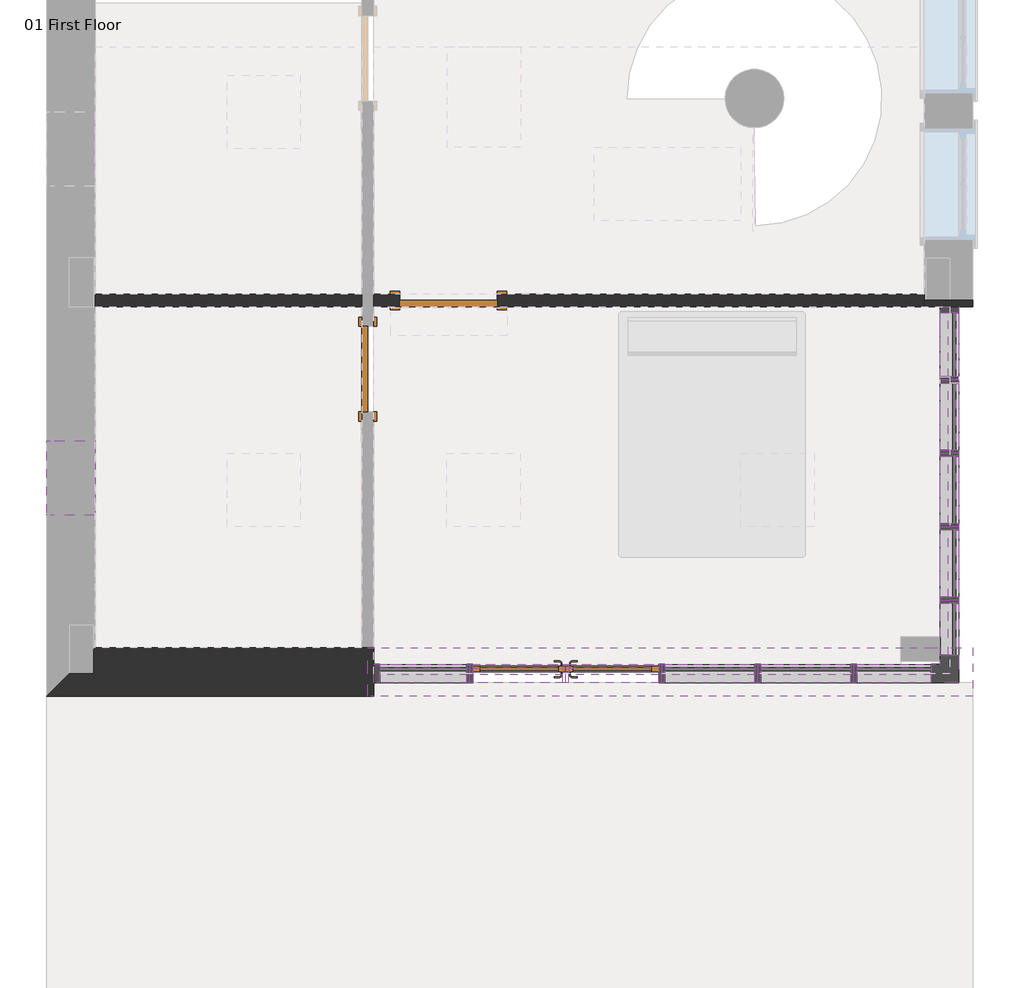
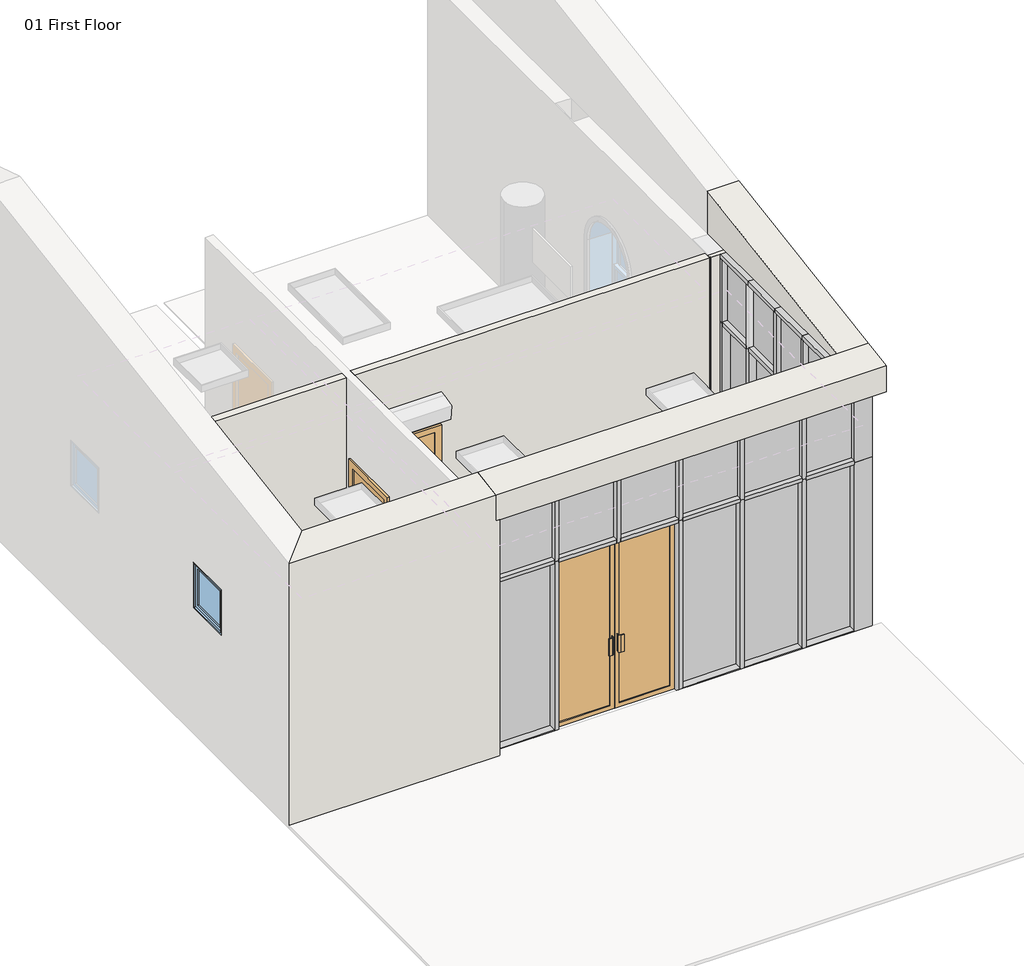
# One storey, part 1 of 3: 53 members, 20 plates, 4 walls, 3 doors, 1 window.
"""IFC4 building model written with IfcOpenShell, lengths in millimetres."""

from ifc_helpers import new_model, si_unit, origin, place, context, project, spatial, faceted_brep, transform, mapped, element, save
from components import m_door_curtain_wall_double_storefront_m_door_curtain_wall_a63655ac, m_single_flush_0700_x_2100mm_23326b45, m_single_flush_0800_x_2100mm_5931a049, l_corner_mullion_l_mullion_1_1d961c4e, l_corner_mullion_l_mullion_1_b63ad59a, rectangular_mullion_50_x_150mm_324a6438, rectangular_mullion_50_x_150mm_8753ce05, rectangular_mullion_50_x_150mm_f70f74d1, rectangular_mullion_50_x_150mm_f478ca5a, rectangular_mullion_50_x_150mm_1075d9c1, rectangular_mullion_50_x_150mm_46eb6b68, rectangular_mullion_50_x_150mm_e71c6a5f, rectangular_mullion_50_x_150mm_3a67f67c, rectangular_mullion_50_x_150mm_6f8b8c16, rectangular_mullion_50_x_150mm_ef0603af, rectangular_mullion_50_x_150mm_754370e9, rectangular_mullion_50_x_150mm_1d8f0c1a, rectangular_mullion_50_x_150mm_0200b82d, rectangular_mullion_50_x_150mm_8ce7235b, rectangular_mullion_50_x_150mm_2b21d210, rectangular_mullion_50_x_150mm_29e254ca, rectangular_mullion_50_x_150mm_14b52876, rectangular_mullion_50_x_150mm_9f0cf5c8, rectangular_mullion_50_x_150mm_be1420ea, rectangular_mullion_50_x_150mm_bf176b26, rectangular_mullion_50_x_150mm_20b6891b, rectangular_mullion_50_x_150mm_c032485d, rectangular_mullion_50_x_150mm_94435dd6, system_panel_glazed_9309a35e, system_panel_glazed_55cc88df, system_panel_glazed_a4bb0f7f, system_panel_glazed_1f9666d3, system_panel_glazed_d7ec0edf, system_panel_glazed_06e6dd14, system_panel_solid_3e9ab903, system_panel_solid_e0b174c6, system_panel_solid_388c8a63, system_panel_solid_286dc7ff, system_panel_solid_fd27a8c9, system_panel_solid_4de7fab2, m_fixed_0610_x_0610mm_08517cb4

model = new_model("IFC4")

# Units and contexts
model_context = context("Model", 3, world=origin())
ifc_project = project(units=[si_unit("LENGTHUNIT", "METRE", prefix="MILLI")], contexts=[model_context])

# Site, building, storey
site = spatial("IfcSite", under=ifc_project)
building = spatial("IfcBuilding", under=site)
storey = spatial("IfcBuildingStorey", under=building, Name="01 First Floor", Elevation=3500.0)

# Doors
placement = place(None, origin())
m_door_curtain_wall_double_storefront_m_door_curtain_wall_shape = m_door_curtain_wall_double_storefront_m_door_curtain_wall_a63655ac(model_context)
element("IfcDoor", 1, ObjectType="M_Door-Curtain-Wall-Double-Storefront : M_Door-Curtain-Wall-Double-Storefront", at=placement, inside=storey, context=model_context, shape_type="MappedRepresentation", body=[
    mapped(m_door_curtain_wall_double_storefront_m_door_curtain_wall_shape, transform((-4264.2074665, -3062.7101648, 3500.0), x_axis=(1.0, 0.0, 0.0), y_axis=(0.0, 1.0, 0.0), z_axis=(0.0, 0.0, 1.0))),
])
m_single_flush_0700_x_2100mm_shape = m_single_flush_0700_x_2100mm_23326b45(model_context)
element("IfcDoor", 2, ObjectType="M_Single-Flush : 0700 x 2100mm", at=placement, inside=storey, context=model_context, shape_type="MappedRepresentation", body=[
    mapped(m_single_flush_0700_x_2100mm_shape, transform((-5882.5407999, -574.1267294, 3500.0), x_axis=(0.0, 1.0, 0.0), y_axis=(-1.0, 0.0, 0.0), z_axis=(0.0, 0.0, 1.0))),
])
m_single_flush_0800_x_2100mm_shape = m_single_flush_0800_x_2100mm_5931a049(model_context)
element("IfcDoor", 3, ObjectType="M_Single-Flush : 0800 x 2100mm", at=placement, inside=storey, context=model_context, shape_type="MappedRepresentation", body=[
    mapped(m_single_flush_0800_x_2100mm_shape, transform((-5222.5407999, -12.7101648, 3500.0), x_axis=(-1.0, 0.0, 0.0), y_axis=(0.0, -1.0, 0.0), z_axis=(0.0, 0.0, 1.0))),
])

# Members
l_corner_mullion_l_mullion_1_shape = l_corner_mullion_l_mullion_1_1d961c4e(model_context)
element("IfcMember", 4, ObjectType="L Corner Mullion : L Mullion 1", at=placement, inside=storey, context=model_context, shape_type="MappedRepresentation", body=[
    mapped(l_corner_mullion_l_mullion_1_shape, transform((-1127.5407999, -3062.7101648, 5800.0), x_axis=(0.0, -1.0, 0.0), y_axis=(1.0, 0.0, 0.0), z_axis=(0.0, 0.0, 1.0))),
])
l_corner_mullion_l_mullion_1_2_shape = l_corner_mullion_l_mullion_1_b63ad59a(model_context)
element("IfcMember", 5, ObjectType="L Corner Mullion : L Mullion 1", at=placement, inside=storey, context=model_context, shape_type="MappedRepresentation", body=[
    mapped(l_corner_mullion_l_mullion_1_2_shape, transform((-1127.5407999, -3062.7101648, 6700.0), x_axis=(0.0, -1.0, 0.0), y_axis=(1.0, 0.0, 0.0), z_axis=(0.0, 0.0, 1.0))),
])
rectangular_mullion_50_x_150mm_shape = rectangular_mullion_50_x_150mm_324a6438(model_context)
element("IfcMember", 6, ObjectType="Rectangular Mullion : 50 x 150mm", at=placement, inside=storey, context=model_context, shape_type="MappedRepresentation", body=[
    mapped(rectangular_mullion_50_x_150mm_shape, transform((-5832.5407999, -3062.7101648, 6650.0), x_axis=(-1.0, 0.0, 0.0), y_axis=(0.0, -1.0, 0.0), z_axis=(0.0, 0.0, 1.0))),
])
rectangular_mullion_50_x_150mm_2_shape = rectangular_mullion_50_x_150mm_8753ce05(model_context)
element("IfcMember", 7, ObjectType="Rectangular Mullion : 50 x 150mm", at=placement, inside=storey, context=model_context, shape_type="MappedRepresentation", body=[
    mapped(rectangular_mullion_50_x_150mm_2_shape, transform((-5832.5407999, -3062.7101648, 5800.0), x_axis=(-1.0, 0.0, 0.0), y_axis=(0.0, -1.0, 0.0), z_axis=(0.0, 0.0, 1.0))),
])
rectangular_mullion_50_x_150mm_3_shape = rectangular_mullion_50_x_150mm_f70f74d1(model_context)
element("IfcMember", 8, ObjectType="Rectangular Mullion : 50 x 150mm", at=placement, inside=storey, context=model_context, shape_type="MappedRepresentation", body=[
    mapped(rectangular_mullion_50_x_150mm_3_shape, transform((-5048.3741331, -3062.7101648, 3500.0), x_axis=(1.0, 0.0, 0.0), y_axis=(0.0, -1.0, 0.0), z_axis=(0.0, 0.0, -1.0))),
])
element("IfcMember", 9, ObjectType="Rectangular Mullion : 50 x 150mm", at=placement, inside=storey, context=model_context, shape_type="MappedRepresentation", body=[
    mapped(rectangular_mullion_50_x_150mm_3_shape, transform((-3480.0407999, -3062.7101648, 3500.0), x_axis=(1.0, 0.0, 0.0), y_axis=(0.0, -1.0, 0.0), z_axis=(0.0, 0.0, -1.0))),
])
element("IfcMember", 10, ObjectType="Rectangular Mullion : 50 x 150mm", at=placement, inside=storey, context=model_context, shape_type="MappedRepresentation", body=[
    mapped(rectangular_mullion_50_x_150mm_3_shape, transform((-2695.8741334, -3062.7101648, 3500.0), x_axis=(1.0, 0.0, 0.0), y_axis=(0.0, -1.0, 0.0), z_axis=(0.0, 0.0, -1.0))),
])
element("IfcMember", 11, ObjectType="Rectangular Mullion : 50 x 150mm", at=placement, inside=storey, context=model_context, shape_type="MappedRepresentation", body=[
    mapped(rectangular_mullion_50_x_150mm_3_shape, transform((-1911.7074668, -3062.7101648, 3500.0), x_axis=(1.0, 0.0, 0.0), y_axis=(0.0, -1.0, 0.0), z_axis=(0.0, 0.0, -1.0))),
])
rectangular_mullion_50_x_150mm_4_shape = rectangular_mullion_50_x_150mm_f478ca5a(model_context)
element("IfcMember", 12, ObjectType="Rectangular Mullion : 50 x 150mm", at=placement, inside=storey, context=model_context, shape_type="MappedRepresentation", body=[
    mapped(rectangular_mullion_50_x_150mm_4_shape, transform((-5048.3741331, -3062.7101648, 5800.0), x_axis=(1.0, 0.0, 0.0), y_axis=(0.0, -1.0, 0.0), z_axis=(0.0, 0.0, -1.0))),
])
element("IfcMember", 13, ObjectType="Rectangular Mullion : 50 x 150mm", at=placement, inside=storey, context=model_context, shape_type="MappedRepresentation", body=[
    mapped(rectangular_mullion_50_x_150mm_4_shape, transform((-3480.0407999, -3062.7101648, 5800.0), x_axis=(1.0, 0.0, 0.0), y_axis=(0.0, -1.0, 0.0), z_axis=(0.0, 0.0, -1.0))),
])
element("IfcMember", 14, ObjectType="Rectangular Mullion : 50 x 150mm", at=placement, inside=storey, context=model_context, shape_type="MappedRepresentation", body=[
    mapped(rectangular_mullion_50_x_150mm_4_shape, transform((-2695.8741334, -3062.7101648, 5800.0), x_axis=(1.0, 0.0, 0.0), y_axis=(0.0, -1.0, 0.0), z_axis=(0.0, 0.0, -1.0))),
])
element("IfcMember", 15, ObjectType="Rectangular Mullion : 50 x 150mm", at=placement, inside=storey, context=model_context, shape_type="MappedRepresentation", body=[
    mapped(rectangular_mullion_50_x_150mm_4_shape, transform((-1911.7074668, -3062.7101648, 5800.0), x_axis=(1.0, 0.0, 0.0), y_axis=(0.0, -1.0, 0.0), z_axis=(0.0, 0.0, -1.0))),
])
rectangular_mullion_50_x_150mm_5_shape = rectangular_mullion_50_x_150mm_1075d9c1(model_context)
element("IfcMember", 16, ObjectType="Rectangular Mullion : 50 x 150mm", at=placement, inside=storey, context=model_context, shape_type="MappedRepresentation", body=[
    mapped(rectangular_mullion_50_x_150mm_5_shape, transform((-4264.2074665, -3062.7101648, 5775.0), x_axis=(1.0, 0.0, 0.0), y_axis=(0.0, -1.0, 0.0), z_axis=(0.0, 0.0, -1.0))),
])
element("IfcMember", 17, ObjectType="Rectangular Mullion : 50 x 150mm", at=placement, inside=storey, context=model_context, shape_type="MappedRepresentation", body=[
    mapped(rectangular_mullion_50_x_150mm_3_shape, transform((-1127.5407999, -2462.7101646, 3500.0), x_axis=(0.0, 1.0, 0.0), y_axis=(1.0, 0.0, 0.0), z_axis=(0.0, 0.0, -1.0))),
])
element("IfcMember", 18, ObjectType="Rectangular Mullion : 50 x 150mm", at=placement, inside=storey, context=model_context, shape_type="MappedRepresentation", body=[
    mapped(rectangular_mullion_50_x_150mm_3_shape, transform((-1127.5407999, -1862.7101647, 3500.0), x_axis=(0.0, 1.0, 0.0), y_axis=(1.0, 0.0, 0.0), z_axis=(0.0, 0.0, -1.0))),
])
element("IfcMember", 19, ObjectType="Rectangular Mullion : 50 x 150mm", at=placement, inside=storey, context=model_context, shape_type="MappedRepresentation", body=[
    mapped(rectangular_mullion_50_x_150mm_3_shape, transform((-1127.5407999, -1262.7101648, 3500.0), x_axis=(0.0, 1.0, 0.0), y_axis=(1.0, 0.0, 0.0), z_axis=(0.0, 0.0, -1.0))),
])
element("IfcMember", 20, ObjectType="Rectangular Mullion : 50 x 150mm", at=placement, inside=storey, context=model_context, shape_type="MappedRepresentation", body=[
    mapped(rectangular_mullion_50_x_150mm_3_shape, transform((-1127.5407999, -662.7101649, 3500.0), x_axis=(0.0, 1.0, 0.0), y_axis=(1.0, 0.0, 0.0), z_axis=(0.0, 0.0, -1.0))),
])
element("IfcMember", 21, ObjectType="Rectangular Mullion : 50 x 150mm", at=placement, inside=storey, context=model_context, shape_type="MappedRepresentation", body=[
    mapped(rectangular_mullion_50_x_150mm_2_shape, transform((-1127.5407999, -62.7101648, 3500.0), x_axis=(0.0, 1.0, 0.0), y_axis=(1.0, 0.0, 0.0), z_axis=(0.0, 0.0, -1.0))),
])
element("IfcMember", 22, ObjectType="Rectangular Mullion : 50 x 150mm", at=placement, inside=storey, context=model_context, shape_type="MappedRepresentation", body=[
    mapped(rectangular_mullion_50_x_150mm_4_shape, transform((-1127.5407999, -2462.7101646, 5800.0), x_axis=(0.0, 1.0, 0.0), y_axis=(1.0, 0.0, 0.0), z_axis=(0.0, 0.0, -1.0))),
])
element("IfcMember", 23, ObjectType="Rectangular Mullion : 50 x 150mm", at=placement, inside=storey, context=model_context, shape_type="MappedRepresentation", body=[
    mapped(rectangular_mullion_50_x_150mm_4_shape, transform((-1127.5407999, -1862.7101647, 5800.0), x_axis=(0.0, 1.0, 0.0), y_axis=(1.0, 0.0, 0.0), z_axis=(0.0, 0.0, -1.0))),
])
element("IfcMember", 24, ObjectType="Rectangular Mullion : 50 x 150mm", at=placement, inside=storey, context=model_context, shape_type="MappedRepresentation", body=[
    mapped(rectangular_mullion_50_x_150mm_4_shape, transform((-1127.5407999, -1262.7101648, 5800.0), x_axis=(0.0, 1.0, 0.0), y_axis=(1.0, 0.0, 0.0), z_axis=(0.0, 0.0, -1.0))),
])
element("IfcMember", 25, ObjectType="Rectangular Mullion : 50 x 150mm", at=placement, inside=storey, context=model_context, shape_type="MappedRepresentation", body=[
    mapped(rectangular_mullion_50_x_150mm_shape, transform((-1127.5407999, -62.7101648, 5800.0), x_axis=(0.0, 1.0, 0.0), y_axis=(1.0, 0.0, 0.0), z_axis=(0.0, 0.0, -1.0))),
])
rectangular_mullion_50_x_150mm_6_shape = rectangular_mullion_50_x_150mm_46eb6b68(model_context)
element("IfcMember", 26, ObjectType="Rectangular Mullion : 50 x 150mm", at=placement, inside=storey, context=model_context, shape_type="MappedRepresentation", body=[
    mapped(rectangular_mullion_50_x_150mm_6_shape, transform((-1127.5407999, -62.7101648, 6700.0), x_axis=(0.0, 0.0, 1.0), y_axis=(1.0, 0.0, 0.0), z_axis=(0.0, 1.0, 0.0))),
])
rectangular_mullion_50_x_150mm_7_shape = rectangular_mullion_50_x_150mm_e71c6a5f(model_context)
element("IfcMember", 27, ObjectType="Rectangular Mullion : 50 x 150mm", at=placement, inside=storey, context=model_context, shape_type="MappedRepresentation", body=[
    mapped(rectangular_mullion_50_x_150mm_7_shape, transform((-1127.5407999, -2912.7101648, 3500.0), x_axis=(0.0, 0.0, -1.0), y_axis=(1.0, 0.0, 0.0), z_axis=(0.0, -1.0, 0.0))),
])
rectangular_mullion_50_x_150mm_8_shape = rectangular_mullion_50_x_150mm_3a67f67c(model_context)
element("IfcMember", 28, ObjectType="Rectangular Mullion : 50 x 150mm", at=placement, inside=storey, context=model_context, shape_type="MappedRepresentation", body=[
    mapped(rectangular_mullion_50_x_150mm_8_shape, transform((-1127.5407999, -2462.7101646, 6700.0), x_axis=(0.0, 0.0, 1.0), y_axis=(1.0, 0.0, 0.0), z_axis=(0.0, 1.0, 0.0))),
])
rectangular_mullion_50_x_150mm_9_shape = rectangular_mullion_50_x_150mm_6f8b8c16(model_context)
element("IfcMember", 29, ObjectType="Rectangular Mullion : 50 x 150mm", at=placement, inside=storey, context=model_context, shape_type="MappedRepresentation", body=[
    mapped(rectangular_mullion_50_x_150mm_9_shape, transform((-1127.5407999, -1862.7101647, 6700.0), x_axis=(0.0, 0.0, 1.0), y_axis=(1.0, 0.0, 0.0), z_axis=(0.0, 1.0, 0.0))),
])
element("IfcMember", 30, ObjectType="Rectangular Mullion : 50 x 150mm", at=placement, inside=storey, context=model_context, shape_type="MappedRepresentation", body=[
    mapped(rectangular_mullion_50_x_150mm_9_shape, transform((-1127.5407999, -1262.7101648, 6700.0), x_axis=(0.0, 0.0, 1.0), y_axis=(1.0, 0.0, 0.0), z_axis=(0.0, 1.0, 0.0))),
])
element("IfcMember", 31, ObjectType="Rectangular Mullion : 50 x 150mm", at=placement, inside=storey, context=model_context, shape_type="MappedRepresentation", body=[
    mapped(rectangular_mullion_50_x_150mm_9_shape, transform((-1127.5407999, -662.7101649, 6700.0), x_axis=(0.0, 0.0, 1.0), y_axis=(1.0, 0.0, 0.0), z_axis=(0.0, 1.0, 0.0))),
])
rectangular_mullion_50_x_150mm_10_shape = rectangular_mullion_50_x_150mm_ef0603af(model_context)
element("IfcMember", 32, ObjectType="Rectangular Mullion : 50 x 150mm", at=placement, inside=storey, context=model_context, shape_type="MappedRepresentation", body=[
    mapped(rectangular_mullion_50_x_150mm_10_shape, transform((-1127.5407999, -2437.7101646, 3500.0), x_axis=(0.0, 0.0, -1.0), y_axis=(1.0, 0.0, 0.0), z_axis=(0.0, -1.0, 0.0))),
])
element("IfcMember", 33, ObjectType="Rectangular Mullion : 50 x 150mm", at=placement, inside=storey, context=model_context, shape_type="MappedRepresentation", body=[
    mapped(rectangular_mullion_50_x_150mm_10_shape, transform((-1127.5407999, -1837.7101647, 3500.0), x_axis=(0.0, 0.0, -1.0), y_axis=(1.0, 0.0, 0.0), z_axis=(0.0, -1.0, 0.0))),
])
element("IfcMember", 34, ObjectType="Rectangular Mullion : 50 x 150mm", at=placement, inside=storey, context=model_context, shape_type="MappedRepresentation", body=[
    mapped(rectangular_mullion_50_x_150mm_10_shape, transform((-1127.5407999, -1237.7101648, 3500.0), x_axis=(0.0, 0.0, -1.0), y_axis=(1.0, 0.0, 0.0), z_axis=(0.0, -1.0, 0.0))),
])
rectangular_mullion_50_x_150mm_11_shape = rectangular_mullion_50_x_150mm_754370e9(model_context)
element("IfcMember", 35, ObjectType="Rectangular Mullion : 50 x 150mm", at=placement, inside=storey, context=model_context, shape_type="MappedRepresentation", body=[
    mapped(rectangular_mullion_50_x_150mm_11_shape, transform((-1127.5407999, -637.7101649, 3500.0), x_axis=(0.0, 0.0, -1.0), y_axis=(1.0, 0.0, 0.0), z_axis=(0.0, -1.0, 0.0))),
])
rectangular_mullion_50_x_150mm_12_shape = rectangular_mullion_50_x_150mm_1d8f0c1a(model_context)
element("IfcMember", 36, ObjectType="Rectangular Mullion : 50 x 150mm", at=placement, inside=storey, context=model_context, shape_type="MappedRepresentation", body=[
    mapped(rectangular_mullion_50_x_150mm_12_shape, transform((-1127.5407999, -2487.7101646, 5800.0), x_axis=(0.0, 0.0, 1.0), y_axis=(1.0, 0.0, 0.0), z_axis=(0.0, 1.0, 0.0))),
])
rectangular_mullion_50_x_150mm_13_shape = rectangular_mullion_50_x_150mm_0200b82d(model_context)
element("IfcMember", 37, ObjectType="Rectangular Mullion : 50 x 150mm", at=placement, inside=storey, context=model_context, shape_type="MappedRepresentation", body=[
    mapped(rectangular_mullion_50_x_150mm_13_shape, transform((-1127.5407999, -1887.7101647, 5800.0), x_axis=(0.0, 0.0, 1.0), y_axis=(1.0, 0.0, 0.0), z_axis=(0.0, 1.0, 0.0))),
])
element("IfcMember", 38, ObjectType="Rectangular Mullion : 50 x 150mm", at=placement, inside=storey, context=model_context, shape_type="MappedRepresentation", body=[
    mapped(rectangular_mullion_50_x_150mm_13_shape, transform((-1127.5407999, -1287.7101648, 5800.0), x_axis=(0.0, 0.0, 1.0), y_axis=(1.0, 0.0, 0.0), z_axis=(0.0, 1.0, 0.0))),
])
element("IfcMember", 39, ObjectType="Rectangular Mullion : 50 x 150mm", at=placement, inside=storey, context=model_context, shape_type="MappedRepresentation", body=[
    mapped(rectangular_mullion_50_x_150mm_13_shape, transform((-1127.5407999, -687.7101649, 5800.0), x_axis=(0.0, 0.0, 1.0), y_axis=(1.0, 0.0, 0.0), z_axis=(0.0, 1.0, 0.0))),
])
rectangular_mullion_50_x_150mm_14_shape = rectangular_mullion_50_x_150mm_8ce7235b(model_context)
element("IfcMember", 40, ObjectType="Rectangular Mullion : 50 x 150mm", at=placement, inside=storey, context=model_context, shape_type="MappedRepresentation", body=[
    mapped(rectangular_mullion_50_x_150mm_14_shape, transform((-1127.5407999, -112.7101648, 5800.0), x_axis=(0.0, 0.0, 1.0), y_axis=(1.0, 0.0, 0.0), z_axis=(0.0, 1.0, 0.0))),
])
rectangular_mullion_50_x_150mm_15_shape = rectangular_mullion_50_x_150mm_2b21d210(model_context)
element("IfcMember", 41, ObjectType="Rectangular Mullion : 50 x 150mm", at=placement, inside=storey, context=model_context, shape_type="MappedRepresentation", body=[
    mapped(rectangular_mullion_50_x_150mm_15_shape, transform((-1277.5407999, -3062.7101648, 6700.0), x_axis=(0.0, 0.0, 1.0), y_axis=(0.0, -1.0, 0.0), z_axis=(1.0, 0.0, 0.0))),
])
rectangular_mullion_50_x_150mm_16_shape = rectangular_mullion_50_x_150mm_29e254ca(model_context)
element("IfcMember", 42, ObjectType="Rectangular Mullion : 50 x 150mm", at=placement, inside=storey, context=model_context, shape_type="MappedRepresentation", body=[
    mapped(rectangular_mullion_50_x_150mm_16_shape, transform((-5782.5407999, -3062.7101648, 3500.0), x_axis=(0.0, 0.0, -1.0), y_axis=(0.0, -1.0, 0.0), z_axis=(-1.0, 0.0, 0.0))),
])
rectangular_mullion_50_x_150mm_17_shape = rectangular_mullion_50_x_150mm_14b52876(model_context)
element("IfcMember", 43, ObjectType="Rectangular Mullion : 50 x 150mm", at=placement, inside=storey, context=model_context, shape_type="MappedRepresentation", body=[
    mapped(rectangular_mullion_50_x_150mm_17_shape, transform((-5048.3741331, -3062.7101648, 6700.0), x_axis=(0.0, 0.0, 1.0), y_axis=(0.0, -1.0, 0.0), z_axis=(1.0, 0.0, 0.0))),
])
rectangular_mullion_50_x_150mm_18_shape = rectangular_mullion_50_x_150mm_9f0cf5c8(model_context)
element("IfcMember", 44, ObjectType="Rectangular Mullion : 50 x 150mm", at=placement, inside=storey, context=model_context, shape_type="MappedRepresentation", body=[
    mapped(rectangular_mullion_50_x_150mm_18_shape, transform((-4264.2074665, -3062.7101648, 6700.0), x_axis=(0.0, 0.0, 1.0), y_axis=(0.0, -1.0, 0.0), z_axis=(1.0, 0.0, 0.0))),
])
element("IfcMember", 45, ObjectType="Rectangular Mullion : 50 x 150mm", at=placement, inside=storey, context=model_context, shape_type="MappedRepresentation", body=[
    mapped(rectangular_mullion_50_x_150mm_18_shape, transform((-3480.0407999, -3062.7101648, 6700.0), x_axis=(0.0, 0.0, 1.0), y_axis=(0.0, -1.0, 0.0), z_axis=(1.0, 0.0, 0.0))),
])
element("IfcMember", 46, ObjectType="Rectangular Mullion : 50 x 150mm", at=placement, inside=storey, context=model_context, shape_type="MappedRepresentation", body=[
    mapped(rectangular_mullion_50_x_150mm_18_shape, transform((-2695.8741334, -3062.7101648, 6700.0), x_axis=(0.0, 0.0, 1.0), y_axis=(0.0, -1.0, 0.0), z_axis=(1.0, 0.0, 0.0))),
])
element("IfcMember", 47, ObjectType="Rectangular Mullion : 50 x 150mm", at=placement, inside=storey, context=model_context, shape_type="MappedRepresentation", body=[
    mapped(rectangular_mullion_50_x_150mm_18_shape, transform((-1911.7074668, -3062.7101648, 6700.0), x_axis=(0.0, 0.0, 1.0), y_axis=(0.0, -1.0, 0.0), z_axis=(1.0, 0.0, 0.0))),
])
rectangular_mullion_50_x_150mm_19_shape = rectangular_mullion_50_x_150mm_be1420ea(model_context)
element("IfcMember", 48, ObjectType="Rectangular Mullion : 50 x 150mm", at=placement, inside=storey, context=model_context, shape_type="MappedRepresentation", body=[
    mapped(rectangular_mullion_50_x_150mm_19_shape, transform((-3455.0407999, -3062.7101648, 3500.0), x_axis=(0.0, 0.0, -1.0), y_axis=(0.0, -1.0, 0.0), z_axis=(-1.0, 0.0, 0.0))),
])
element("IfcMember", 49, ObjectType="Rectangular Mullion : 50 x 150mm", at=placement, inside=storey, context=model_context, shape_type="MappedRepresentation", body=[
    mapped(rectangular_mullion_50_x_150mm_19_shape, transform((-2670.8741334, -3062.7101648, 3500.0), x_axis=(0.0, 0.0, -1.0), y_axis=(0.0, -1.0, 0.0), z_axis=(-1.0, 0.0, 0.0))),
])
rectangular_mullion_50_x_150mm_20_shape = rectangular_mullion_50_x_150mm_bf176b26(model_context)
element("IfcMember", 50, ObjectType="Rectangular Mullion : 50 x 150mm", at=placement, inside=storey, context=model_context, shape_type="MappedRepresentation", body=[
    mapped(rectangular_mullion_50_x_150mm_20_shape, transform((-5073.3741331, -3062.7101648, 5800.0), x_axis=(0.0, 0.0, 1.0), y_axis=(0.0, -1.0, 0.0), z_axis=(1.0, 0.0, 0.0))),
])
rectangular_mullion_50_x_150mm_21_shape = rectangular_mullion_50_x_150mm_20b6891b(model_context)
element("IfcMember", 51, ObjectType="Rectangular Mullion : 50 x 150mm", at=placement, inside=storey, context=model_context, shape_type="MappedRepresentation", body=[
    mapped(rectangular_mullion_50_x_150mm_21_shape, transform((-4289.2074665, -3062.7101648, 5800.0), x_axis=(0.0, 0.0, 1.0), y_axis=(0.0, -1.0, 0.0), z_axis=(1.0, 0.0, 0.0))),
])
element("IfcMember", 52, ObjectType="Rectangular Mullion : 50 x 150mm", at=placement, inside=storey, context=model_context, shape_type="MappedRepresentation", body=[
    mapped(rectangular_mullion_50_x_150mm_21_shape, transform((-3505.0407999, -3062.7101648, 5800.0), x_axis=(0.0, 0.0, 1.0), y_axis=(0.0, -1.0, 0.0), z_axis=(1.0, 0.0, 0.0))),
])
element("IfcMember", 53, ObjectType="Rectangular Mullion : 50 x 150mm", at=placement, inside=storey, context=model_context, shape_type="MappedRepresentation", body=[
    mapped(rectangular_mullion_50_x_150mm_21_shape, transform((-2720.8741334, -3062.7101648, 5800.0), x_axis=(0.0, 0.0, 1.0), y_axis=(0.0, -1.0, 0.0), z_axis=(1.0, 0.0, 0.0))),
])
element("IfcMember", 54, ObjectType="Rectangular Mullion : 50 x 150mm", at=placement, inside=storey, context=model_context, shape_type="MappedRepresentation", body=[
    mapped(rectangular_mullion_50_x_150mm_21_shape, transform((-1936.7074668, -3062.7101648, 5800.0), x_axis=(0.0, 0.0, 1.0), y_axis=(0.0, -1.0, 0.0), z_axis=(1.0, 0.0, 0.0))),
])
rectangular_mullion_50_x_150mm_22_shape = rectangular_mullion_50_x_150mm_c032485d(model_context)
element("IfcMember", 55, ObjectType="Rectangular Mullion : 50 x 150mm", at=placement, inside=storey, context=model_context, shape_type="MappedRepresentation", body=[
    mapped(rectangular_mullion_50_x_150mm_22_shape, transform((-1886.7074668, -3062.7101648, 3500.0), x_axis=(0.0, 0.0, -1.0), y_axis=(0.0, -1.0, 0.0), z_axis=(-1.0, 0.0, 0.0))),
])
rectangular_mullion_50_x_150mm_23_shape = rectangular_mullion_50_x_150mm_94435dd6(model_context)
element("IfcMember", 56, ObjectType="Rectangular Mullion : 50 x 150mm", at=placement, inside=storey, context=model_context, shape_type="MappedRepresentation", body=[
    mapped(rectangular_mullion_50_x_150mm_23_shape, transform((-1277.5407999, -3062.7101648, 5800.0), x_axis=(0.0, 0.0, 1.0), y_axis=(0.0, -1.0, 0.0), z_axis=(1.0, 0.0, 0.0))),
])

# Plates
system_panel_glazed_shape = system_panel_glazed_9309a35e(model_context)
element("IfcPlate", 57, ObjectType="System Panel : Glazed", at=placement, inside=storey, context=model_context, shape_type="MappedRepresentation", body=[
    mapped(system_panel_glazed_shape, transform((-1127.5407999, -2700.2101647, 3550.0), x_axis=(0.0, 1.0, 0.0), y_axis=(-1.0, 0.0, 0.0), z_axis=(0.0, 0.0, 1.0))),
])
system_panel_glazed_2_shape = system_panel_glazed_55cc88df(model_context)
element("IfcPlate", 58, ObjectType="System Panel : Glazed", at=placement, inside=storey, context=model_context, shape_type="MappedRepresentation", body=[
    mapped(system_panel_glazed_2_shape, transform((-1127.5407999, -2162.7101646, 3550.0), x_axis=(0.0, 1.0, 0.0), y_axis=(-1.0, 0.0, 0.0), z_axis=(0.0, 0.0, 1.0))),
])
element("IfcPlate", 59, ObjectType="System Panel : Glazed", at=placement, inside=storey, context=model_context, shape_type="MappedRepresentation", body=[
    mapped(system_panel_glazed_2_shape, transform((-1127.5407999, -1562.7101648, 3550.0), x_axis=(0.0, 1.0, 0.0), y_axis=(-1.0, 0.0, 0.0), z_axis=(0.0, 0.0, 1.0))),
])
element("IfcPlate", 60, ObjectType="System Panel : Glazed", at=placement, inside=storey, context=model_context, shape_type="MappedRepresentation", body=[
    mapped(system_panel_glazed_2_shape, transform((-1127.5407999, -962.7101649, 3550.0), x_axis=(0.0, 1.0, 0.0), y_axis=(-1.0, 0.0, 0.0), z_axis=(0.0, 0.0, 1.0))),
])
system_panel_glazed_3_shape = system_panel_glazed_a4bb0f7f(model_context)
element("IfcPlate", 61, ObjectType="System Panel : Glazed", at=placement, inside=storey, context=model_context, shape_type="MappedRepresentation", body=[
    mapped(system_panel_glazed_3_shape, transform((-1127.5407999, -375.2101649, 3550.0), x_axis=(0.0, 1.0, 0.0), y_axis=(-1.0, 0.0, 0.0), z_axis=(0.0, 0.0, 1.0))),
])
system_panel_glazed_4_shape = system_panel_glazed_1f9666d3(model_context)
element("IfcPlate", 62, ObjectType="System Panel : Glazed", at=placement, inside=storey, context=model_context, shape_type="MappedRepresentation", body=[
    mapped(system_panel_glazed_4_shape, transform((-5427.9574665, -3062.7101648, 3550.0), x_axis=(1.0, 0.0, 0.0), y_axis=(0.0, 1.0, 0.0), z_axis=(0.0, 0.0, 1.0))),
])
system_panel_glazed_5_shape = system_panel_glazed_d7ec0edf(model_context)
element("IfcPlate", 63, ObjectType="System Panel : Glazed", at=placement, inside=storey, context=model_context, shape_type="MappedRepresentation", body=[
    mapped(system_panel_glazed_5_shape, transform((-3087.9574667, -3062.7101648, 3550.0), x_axis=(1.0, 0.0, 0.0), y_axis=(0.0, 1.0, 0.0), z_axis=(0.0, 0.0, 1.0))),
])
element("IfcPlate", 64, ObjectType="System Panel : Glazed", at=placement, inside=storey, context=model_context, shape_type="MappedRepresentation", body=[
    mapped(system_panel_glazed_5_shape, transform((-2303.7908001, -3062.7101648, 3550.0), x_axis=(1.0, 0.0, 0.0), y_axis=(0.0, 1.0, 0.0), z_axis=(0.0, 0.0, 1.0))),
])
system_panel_glazed_6_shape = system_panel_glazed_06e6dd14(model_context)
element("IfcPlate", 65, ObjectType="System Panel : Glazed", at=placement, inside=storey, context=model_context, shape_type="MappedRepresentation", body=[
    mapped(system_panel_glazed_6_shape, transform((-1582.1241334, -3062.7101648, 3550.0), x_axis=(1.0, 0.0, 0.0), y_axis=(0.0, 1.0, 0.0), z_axis=(0.0, 0.0, 1.0))),
])
system_panel_solid_shape = system_panel_solid_3e9ab903(model_context)
element("IfcPlate", 66, ObjectType="System Panel : Solid", at=placement, inside=storey, context=model_context, shape_type="MappedRepresentation", body=[
    mapped(system_panel_solid_shape, transform((-1127.5407999, -2700.2101647, 5825.0), x_axis=(0.0, 1.0, 0.0), y_axis=(-1.0, 0.0, 0.0), z_axis=(0.0, 0.0, 1.0))),
])
system_panel_solid_2_shape = system_panel_solid_e0b174c6(model_context)
element("IfcPlate", 67, ObjectType="System Panel : Solid", at=placement, inside=storey, context=model_context, shape_type="MappedRepresentation", body=[
    mapped(system_panel_solid_2_shape, transform((-1127.5407999, -2162.7101646, 5825.0), x_axis=(0.0, 1.0, 0.0), y_axis=(-1.0, 0.0, 0.0), z_axis=(0.0, 0.0, 1.0))),
])
element("IfcPlate", 68, ObjectType="System Panel : Solid", at=placement, inside=storey, context=model_context, shape_type="MappedRepresentation", body=[
    mapped(system_panel_solid_2_shape, transform((-1127.5407999, -1562.7101648, 5825.0), x_axis=(0.0, 1.0, 0.0), y_axis=(-1.0, 0.0, 0.0), z_axis=(0.0, 0.0, 1.0))),
])
element("IfcPlate", 69, ObjectType="System Panel : Solid", at=placement, inside=storey, context=model_context, shape_type="MappedRepresentation", body=[
    mapped(system_panel_solid_2_shape, transform((-1127.5407999, -962.7101649, 5825.0), x_axis=(0.0, 1.0, 0.0), y_axis=(-1.0, 0.0, 0.0), z_axis=(0.0, 0.0, 1.0))),
])
system_panel_solid_3_shape = system_panel_solid_388c8a63(model_context)
element("IfcPlate", 70, ObjectType="System Panel : Solid", at=placement, inside=storey, context=model_context, shape_type="MappedRepresentation", body=[
    mapped(system_panel_solid_3_shape, transform((-1127.5407999, -375.2101649, 5825.0), x_axis=(0.0, 1.0, 0.0), y_axis=(-1.0, 0.0, 0.0), z_axis=(0.0, 0.0, 1.0))),
])
system_panel_solid_4_shape = system_panel_solid_286dc7ff(model_context)
element("IfcPlate", 71, ObjectType="System Panel : Solid", at=placement, inside=storey, context=model_context, shape_type="MappedRepresentation", body=[
    mapped(system_panel_solid_4_shape, transform((-5427.9574665, -3062.7101648, 5825.0), x_axis=(1.0, 0.0, 0.0), y_axis=(0.0, 1.0, 0.0), z_axis=(0.0, 0.0, 1.0))),
])
system_panel_solid_5_shape = system_panel_solid_fd27a8c9(model_context)
element("IfcPlate", 72, ObjectType="System Panel : Solid", at=placement, inside=storey, context=model_context, shape_type="MappedRepresentation", body=[
    mapped(system_panel_solid_5_shape, transform((-4656.2907998, -3062.7101648, 5825.0), x_axis=(1.0, 0.0, 0.0), y_axis=(0.0, 1.0, 0.0), z_axis=(0.0, 0.0, 1.0))),
])
element("IfcPlate", 73, ObjectType="System Panel : Solid", at=placement, inside=storey, context=model_context, shape_type="MappedRepresentation", body=[
    mapped(system_panel_solid_5_shape, transform((-3872.1241332, -3062.7101648, 5825.0), x_axis=(1.0, 0.0, 0.0), y_axis=(0.0, 1.0, 0.0), z_axis=(0.0, 0.0, 1.0))),
])
element("IfcPlate", 74, ObjectType="System Panel : Solid", at=placement, inside=storey, context=model_context, shape_type="MappedRepresentation", body=[
    mapped(system_panel_solid_5_shape, transform((-3087.9574667, -3062.7101648, 5825.0), x_axis=(1.0, 0.0, 0.0), y_axis=(0.0, 1.0, 0.0), z_axis=(0.0, 0.0, 1.0))),
])
element("IfcPlate", 75, ObjectType="System Panel : Solid", at=placement, inside=storey, context=model_context, shape_type="MappedRepresentation", body=[
    mapped(system_panel_solid_5_shape, transform((-2303.7908001, -3062.7101648, 5825.0), x_axis=(1.0, 0.0, 0.0), y_axis=(0.0, 1.0, 0.0), z_axis=(0.0, 0.0, 1.0))),
])
system_panel_solid_6_shape = system_panel_solid_4de7fab2(model_context)
element("IfcPlate", 76, ObjectType="System Panel : Solid", at=placement, inside=storey, context=model_context, shape_type="MappedRepresentation", body=[
    mapped(system_panel_solid_6_shape, transform((-1582.1241334, -3062.7101648, 5825.0), x_axis=(1.0, 0.0, 0.0), y_axis=(0.0, 1.0, 0.0), z_axis=(0.0, 0.0, 1.0))),
])

# Walls
element("IfcWall", 77, ObjectType="Exterior - Brick on CMU", at=placement, inside=storey, context=model_context, shape_type="Brep", body=[
    faceted_brep([(-5832.5407999, -2849.7101648, 3500.0), (-5932.5407999, -2849.7101648, 3500.0), (-8109.5407999, -2849.7101648, 3500.0), (-8109.5407999, -2849.7101648, 6700.0), (-5932.5407999, -2849.7101648, 6700.0), (-5832.5407999, -2849.7101648, 6700.0), (-8109.5407999, -2849.7101648, 7106.4671533), (-5882.5407999, -2849.7101648, 7106.4671533), (-5882.5407999, -2849.7101648, 7000.0), (-8109.5407999, -2849.7101648, 7000.0), (-8507.5407999, -3247.7101648, 3500.0), (-5832.5407999, -3247.7101648, 3500.0), (-5832.5407999, -3247.7101648, 6700.0), (-5882.5407999, -3247.7101648, 6700.0), (-5882.5407999, -3247.7101648, 7042.5547445), (-8507.5407999, -3247.7101648, 7042.5547445), (-8322.5407999, -3062.7101648, 3500.0), (-8122.5407999, -3062.7101648, 3500.0), (-8122.5407999, -2862.7101648, 3500.0), (-8322.5407999, -3062.7101648, 7000.0), (-8122.5407999, -2862.7101648, 6700.0), (-8122.5407999, -3062.7101648, 6700.0), (-5882.5407999, -3062.7101648, 7000.0), (-5882.5407999, -3062.7101648, 6700.0)], [[[0, 1, 2, 3, 4, 5]], [[6, 7, 8, 9]], [[10, 11, 12, 13, 14, 15]], [[2, 1, 0, 11, 10, 16, 17, 18]], [[10, 15, 6, 9, 19, 16]], [[2, 18, 20, 3]], [[18, 17, 21, 20]], [[22, 23, 21, 17, 16, 19]], [[22, 19, 9, 8]], [[14, 13, 23, 22, 8, 7]], [[13, 12, 5, 4, 3, 20, 21, 23]], [[11, 0, 5, 12]], [[7, 6, 15, 14]]]),
])
element("IfcWall", 78, ObjectType="Exterior - Brick on CMU", at=placement, inside=storey, context=model_context, shape_type="Brep", body=[
    faceted_brep([(-5882.5407999, -3247.7101648, 6700.0), (-5832.5407999, -3247.7101648, 6700.0), (-937.5407999, -3247.7101648, 6700.0), (-937.5407999, -3247.7101648, 7042.5547445), (-5882.5407999, -3247.7101648, 7042.5547445), (-937.5407999, -2849.7101648, 7106.4671533), (-937.5407999, -2849.7101648, 6700.0), (-1122.5407999, -2849.7101648, 6700.0), (-1122.5407999, -2849.7101648, 7000.0), (-1335.5407999, -2849.7101648, 7000.0), (-5882.5407999, -2849.7101648, 7000.0), (-5882.5407999, -2849.7101648, 7106.4671533), (-1335.5407999, -2849.7101648, 7106.4671533), (-5882.5407999, -3062.7101648, 6700.0), (-1122.5407999, -3062.7101648, 6700.0), (-5882.5407999, -3062.7101648, 7000.0), (-1122.5407999, -3062.7101648, 7000.0)], [[[0, 1, 2, 3, 4]], [[5, 6, 7, 8, 9, 10, 11, 12]], [[2, 1, 0, 13, 14, 7, 6]], [[0, 4, 11, 10, 15, 13]], [[3, 2, 6, 5]], [[8, 16, 15, 10, 9]], [[14, 16, 8, 7]], [[16, 14, 13, 15]], [[11, 4, 3, 5, 12]]]),
])
element("IfcWall", 79, ObjectType="Exterior - Brick on CMU", at=placement, inside=storey, context=model_context, shape_type="Brep", body=[
    faceted_brep([(-937.5407999, -12.7101648, 3500.0), (-937.5407999, -12.7101648, 7562.0437956), (-937.5407999, -2849.7101648, 7106.4671533), (-937.5407999, -2849.7101648, 6700.0), (-937.5407999, -62.7101648, 6700.0), (-937.5407999, -62.7101648, 3500.0), (-1335.5407999, -2849.7101648, 7106.4671533), (-1335.5407999, -12.7101648, 7562.0437956), (-1335.5407999, -12.7101648, 7000.0), (-1335.5407999, -2849.7101648, 7000.0), (-1335.5407999, -62.7101648, 3500.0), (-1335.5407999, -62.7101648, 6700.0), (-1335.5407999, -12.7101648, 6700.0), (-1335.5407999, -12.7101648, 3500.0), (-1322.5407999, -12.7101648, 3500.0), (-1122.5407999, -12.7101648, 3500.0), (-1122.5407999, -2849.7101648, 7000.0), (-1122.5407999, -2849.7101648, 6700.0), (-1322.5407999, -12.7101648, 6700.0), (-1122.5407999, -12.7101648, 6700.0), (-1122.5407999, -12.7101648, 7000.0), (-1122.5407999, -62.7101648, 6700.0)], [[[0, 1, 2, 3, 4, 5]], [[6, 7, 8, 9]], [[10, 11, 12, 13]], [[13, 14, 15, 0, 5, 10]], [[3, 2, 6, 9, 16, 17]], [[0, 15, 14, 13, 12, 18, 19, 20, 8, 7, 1]], [[21, 19, 18, 12, 11]], [[20, 16, 9, 8]], [[19, 21, 17, 16, 20]], [[4, 3, 17, 21]], [[5, 4, 21, 11, 10]], [[7, 6, 2, 1]]]),
])
element("IfcWall", 80, ObjectType="Generic - 100mm", at=placement, inside=storey, context=model_context, shape_type="Brep", body=[
    faceted_brep([(-1335.5407999, -62.7101648, 3500.0), (-1335.5407999, -62.7101648, 6700.0), (-5832.5407999, -62.7101648, 6700.0), (-5832.5407999, -62.7101648, 3500.0), (-5622.5407999, -62.7101648, 3500.0), (-5622.5407999, -62.7101648, 5600.0), (-4822.5407999, -62.7101648, 5600.0), (-4822.5407999, -62.7101648, 3500.0), (-1335.5407999, 37.2898352, 6700.0), (-1335.5407999, 37.2898352, 3500.0), (-4822.5407999, 37.2898352, 3500.0), (-4822.5407999, 37.2898352, 5600.0), (-5622.5407999, 37.2898352, 5600.0), (-5622.5407999, 37.2898352, 3500.0), (-5832.5407999, 37.2898352, 3500.0), (-5832.5407999, 37.2898352, 6700.0), (-1335.5407999, -12.7101648, 3500.0), (-1335.5407999, -12.7101648, 6700.0)], [[[0, 1, 2, 3, 4, 5, 6, 7]], [[8, 9, 10, 11, 12, 13, 14, 15]], [[9, 16, 0, 7, 10]], [[13, 4, 3, 14]], [[1, 0, 16, 9, 8, 17]], [[3, 2, 15, 14]], [[1, 17, 8, 15, 2]], [[5, 4, 13, 12]], [[6, 5, 12, 11]], [[7, 6, 11, 10]]]),
    faceted_brep([(-8109.5407999, -62.7101648, 6700.0), (-8109.5407999, -62.7101648, 3500.0), (-5932.5407999, -62.7101648, 3500.0), (-5932.5407999, -62.7101648, 6700.0), (-8109.5407999, 37.2898352, 3500.0), (-8109.5407999, 37.2898352, 6700.0), (-5932.5407999, 37.2898352, 6700.0), (-5932.5407999, 37.2898352, 3500.0)], [[[0, 1, 2, 3]], [[4, 5, 6, 7]], [[1, 4, 7, 2]], [[3, 2, 7, 6]], [[5, 0, 3, 6]], [[1, 0, 5, 4]]]),
])

# Window
m_fixed_0610_x_0610mm_shape = m_fixed_0610_x_0610mm_08517cb4(model_context)
element("IfcWindow", 81, ObjectType="M_Fixed : 0610 x 0610mm", at=placement, inside=storey, context=model_context, shape_type="MappedRepresentation", body=[
    mapped(m_fixed_0610_x_0610mm_shape, transform((-8295.5407999, -1462.7101648, 4275.0), x_axis=(0.0, 1.0, 0.0), y_axis=(-1.0, 0.0, 0.0), z_axis=(0.0, 0.0, 1.0))),
])

save(model, "model.ifc")
